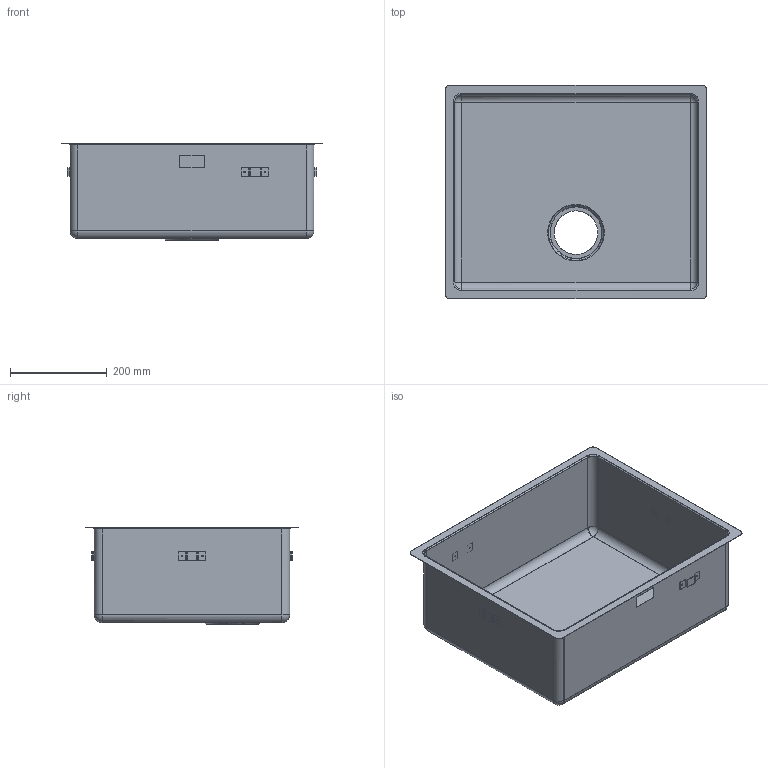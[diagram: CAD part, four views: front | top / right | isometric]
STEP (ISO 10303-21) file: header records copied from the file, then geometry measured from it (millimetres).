
FILE_DESCRIPTION(('CATIA V5 STEP Exchange'),'2;1');
FILE_NAME('C:\Users\linop\Desktop\VFU50SFR.stp','2020-11-13T12:38:48+00:00',('none'),('none'),'CATIA Version 5-6 Release 2014','CATIA V5 STEP AP203','none');
FILE_SCHEMA(('CONFIG_CONTROL_DESIGN'));
Length unit declared in the file: millimetre
Products named in the file (1): VFU50SFR
Bounding box: 540 x 440 x 200 mm (x, y, z)
Volume: 566691 mm3; surface area: 1139745.7 mm2
Topology: 5 solids, 5 shells, 186 faces, 468 edges, 296 vertices
Faces by surface type: plane 78, cylinder 72, bspline 28, sphere 8
Entity records: 8232 total; most frequent: CARTESIAN_POINT 4048, ORIENTED_EDGE 936, DIRECTION 663, EDGE_CURVE 468, VERTEX_POINT 296, VECTOR 267, LINE 267, AXIS2_PLACEMENT_3D 261
